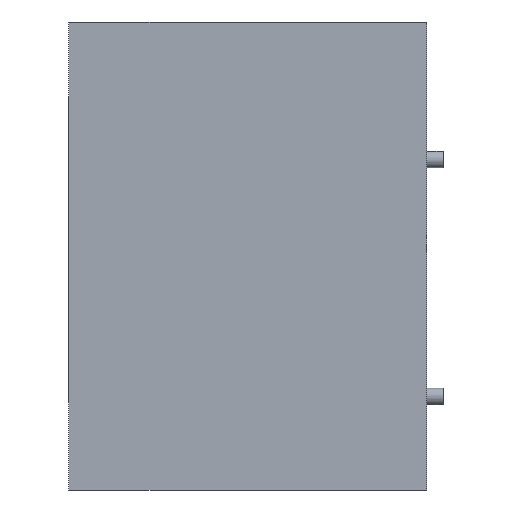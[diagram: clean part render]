
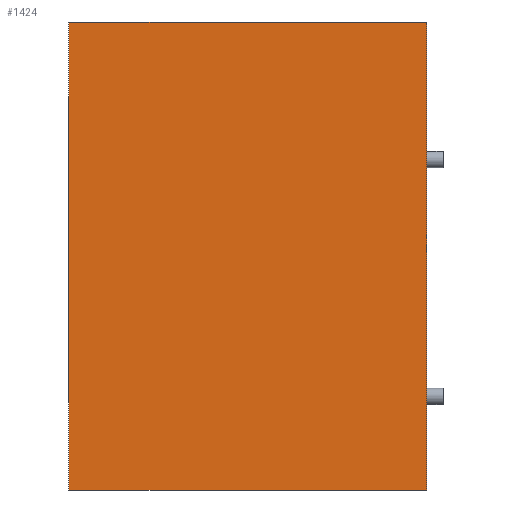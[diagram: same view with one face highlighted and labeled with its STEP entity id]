
A CAD part, left-side view. The second image highlights one B-rep face of the part: STEP entity #1424.
In plain terms, the highlighted planar face has unit normal (-1, 0, 0).
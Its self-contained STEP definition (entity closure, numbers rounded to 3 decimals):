
#312 = PLANE('',#313);
#313 = AXIS2_PLACEMENT_3D('',#314,#315,#316);
#314 = CARTESIAN_POINT('',(-80.,-65.,170.));
#315 = DIRECTION('',(0.,0.,1.));
#316 = DIRECTION('',(1.,0.,0.));
#822 = EDGE_CURVE('',#823,#825,#827,.T.);
#823 = VERTEX_POINT('',#824);
#824 = CARTESIAN_POINT('',(-80.,-65.,170.));
#825 = VERTEX_POINT('',#826);
#826 = CARTESIAN_POINT('',(-80.,65.,170.));
#827 = SURFACE_CURVE('',#828,(#832,#839),.PCURVE_S1.);
#828 = LINE('',#829,#830);
#829 = CARTESIAN_POINT('',(-80.,-65.,170.));
#830 = VECTOR('',#831,1.);
#831 = DIRECTION('',(0.,1.,0.));
#832 = PCURVE('',#312,#833);
#833 = DEFINITIONAL_REPRESENTATION('',(#834),#838);
#834 = LINE('',#835,#836);
#835 = CARTESIAN_POINT('',(0.,0.));
#836 = VECTOR('',#837,1.);
#837 = DIRECTION('',(0.,1.));
#838 = ( GEOMETRIC_REPRESENTATION_CONTEXT(2) 
PARAMETRIC_REPRESENTATION_CONTEXT() REPRESENTATION_CONTEXT('2D SPACE',''
  ) );
#839 = PCURVE('',#840,#845);
#840 = PLANE('',#841);
#841 = AXIS2_PLACEMENT_3D('',#842,#843,#844);
#842 = CARTESIAN_POINT('',(-80.,-65.,0.));
#843 = DIRECTION('',(1.,0.,0.));
#844 = DIRECTION('',(0.,0.,1.));
#845 = DEFINITIONAL_REPRESENTATION('',(#846),#850);
#846 = LINE('',#847,#848);
#847 = CARTESIAN_POINT('',(170.,0.));
#848 = VECTOR('',#849,1.);
#849 = DIRECTION('',(0.,-1.));
#850 = ( GEOMETRIC_REPRESENTATION_CONTEXT(2) 
PARAMETRIC_REPRESENTATION_CONTEXT() REPRESENTATION_CONTEXT('2D SPACE',''
  ) );
#868 = PLANE('',#869);
#869 = AXIS2_PLACEMENT_3D('',#870,#871,#872);
#870 = CARTESIAN_POINT('',(-80.,-65.,0.));
#871 = DIRECTION('',(0.,1.,0.));
#872 = DIRECTION('',(0.,0.,1.));
#922 = PLANE('',#923);
#923 = AXIS2_PLACEMENT_3D('',#924,#925,#926);
#924 = CARTESIAN_POINT('',(-80.,65.,0.));
#925 = DIRECTION('',(0.,1.,0.));
#926 = DIRECTION('',(0.,0.,1.));
#1424 = ADVANCED_FACE('',(#1425),#840,.F.);
#1425 = FACE_BOUND('',#1426,.F.);
#1426 = EDGE_LOOP('',(#1427,#1450,#1478,#1499));
#1427 = ORIENTED_EDGE('',*,*,#1428,.F.);
#1428 = EDGE_CURVE('',#1429,#823,#1431,.T.);
#1429 = VERTEX_POINT('',#1430);
#1430 = CARTESIAN_POINT('',(-80.,-65.,0.));
#1431 = SURFACE_CURVE('',#1432,(#1436,#1443),.PCURVE_S1.);
#1432 = LINE('',#1433,#1434);
#1433 = CARTESIAN_POINT('',(-80.,-65.,0.));
#1434 = VECTOR('',#1435,1.);
#1435 = DIRECTION('',(0.,0.,1.));
#1436 = PCURVE('',#840,#1437);
#1437 = DEFINITIONAL_REPRESENTATION('',(#1438),#1442);
#1438 = LINE('',#1439,#1440);
#1439 = CARTESIAN_POINT('',(0.,0.));
#1440 = VECTOR('',#1441,1.);
#1441 = DIRECTION('',(1.,0.));
#1442 = ( GEOMETRIC_REPRESENTATION_CONTEXT(2) 
PARAMETRIC_REPRESENTATION_CONTEXT() REPRESENTATION_CONTEXT('2D SPACE',''
  ) );
#1443 = PCURVE('',#868,#1444);
#1444 = DEFINITIONAL_REPRESENTATION('',(#1445),#1449);
#1445 = LINE('',#1446,#1447);
#1446 = CARTESIAN_POINT('',(0.,0.));
#1447 = VECTOR('',#1448,1.);
#1448 = DIRECTION('',(1.,0.));
#1449 = ( GEOMETRIC_REPRESENTATION_CONTEXT(2) 
PARAMETRIC_REPRESENTATION_CONTEXT() REPRESENTATION_CONTEXT('2D SPACE',''
  ) );
#1450 = ORIENTED_EDGE('',*,*,#1451,.T.);
#1451 = EDGE_CURVE('',#1429,#1452,#1454,.T.);
#1452 = VERTEX_POINT('',#1453);
#1453 = CARTESIAN_POINT('',(-80.,65.,0.));
#1454 = SURFACE_CURVE('',#1455,(#1459,#1466),.PCURVE_S1.);
#1455 = LINE('',#1456,#1457);
#1456 = CARTESIAN_POINT('',(-80.,-65.,0.));
#1457 = VECTOR('',#1458,1.);
#1458 = DIRECTION('',(0.,1.,0.));
#1459 = PCURVE('',#840,#1460);
#1460 = DEFINITIONAL_REPRESENTATION('',(#1461),#1465);
#1461 = LINE('',#1462,#1463);
#1462 = CARTESIAN_POINT('',(0.,0.));
#1463 = VECTOR('',#1464,1.);
#1464 = DIRECTION('',(0.,-1.));
#1465 = ( GEOMETRIC_REPRESENTATION_CONTEXT(2) 
PARAMETRIC_REPRESENTATION_CONTEXT() REPRESENTATION_CONTEXT('2D SPACE',''
  ) );
#1466 = PCURVE('',#1467,#1472);
#1467 = PLANE('',#1468);
#1468 = AXIS2_PLACEMENT_3D('',#1469,#1470,#1471);
#1469 = CARTESIAN_POINT('',(-80.,-65.,0.));
#1470 = DIRECTION('',(0.,0.,1.));
#1471 = DIRECTION('',(1.,0.,0.));
#1472 = DEFINITIONAL_REPRESENTATION('',(#1473),#1477);
#1473 = LINE('',#1474,#1475);
#1474 = CARTESIAN_POINT('',(0.,0.));
#1475 = VECTOR('',#1476,1.);
#1476 = DIRECTION('',(0.,1.));
#1477 = ( GEOMETRIC_REPRESENTATION_CONTEXT(2) 
PARAMETRIC_REPRESENTATION_CONTEXT() REPRESENTATION_CONTEXT('2D SPACE',''
  ) );
#1478 = ORIENTED_EDGE('',*,*,#1479,.T.);
#1479 = EDGE_CURVE('',#1452,#825,#1480,.T.);
#1480 = SURFACE_CURVE('',#1481,(#1485,#1492),.PCURVE_S1.);
#1481 = LINE('',#1482,#1483);
#1482 = CARTESIAN_POINT('',(-80.,65.,0.));
#1483 = VECTOR('',#1484,1.);
#1484 = DIRECTION('',(0.,0.,1.));
#1485 = PCURVE('',#840,#1486);
#1486 = DEFINITIONAL_REPRESENTATION('',(#1487),#1491);
#1487 = LINE('',#1488,#1489);
#1488 = CARTESIAN_POINT('',(0.,-130.));
#1489 = VECTOR('',#1490,1.);
#1490 = DIRECTION('',(1.,0.));
#1491 = ( GEOMETRIC_REPRESENTATION_CONTEXT(2) 
PARAMETRIC_REPRESENTATION_CONTEXT() REPRESENTATION_CONTEXT('2D SPACE',''
  ) );
#1492 = PCURVE('',#922,#1493);
#1493 = DEFINITIONAL_REPRESENTATION('',(#1494),#1498);
#1494 = LINE('',#1495,#1496);
#1495 = CARTESIAN_POINT('',(0.,0.));
#1496 = VECTOR('',#1497,1.);
#1497 = DIRECTION('',(1.,0.));
#1498 = ( GEOMETRIC_REPRESENTATION_CONTEXT(2) 
PARAMETRIC_REPRESENTATION_CONTEXT() REPRESENTATION_CONTEXT('2D SPACE',''
  ) );
#1499 = ORIENTED_EDGE('',*,*,#822,.F.);
